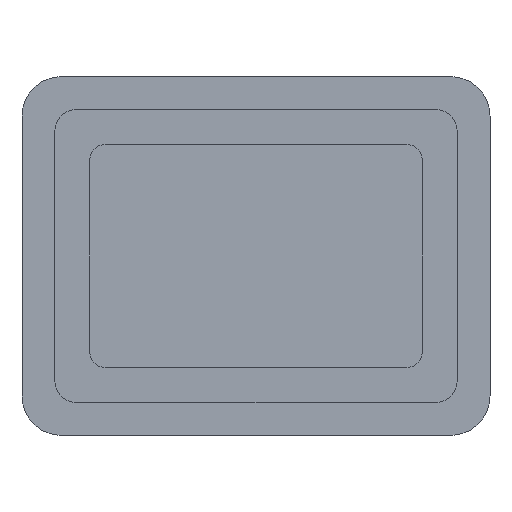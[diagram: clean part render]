
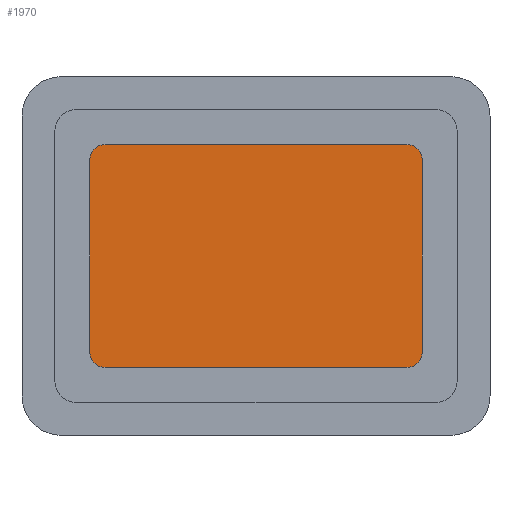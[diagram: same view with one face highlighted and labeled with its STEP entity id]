
A CAD part, left-side view. The second image highlights one B-rep face of the part: STEP entity #1970.
In plain terms, the highlighted planar face has unit normal (-1, 0, 0).
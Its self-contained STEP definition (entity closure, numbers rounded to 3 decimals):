
#1361 = CYLINDRICAL_SURFACE('',#1362,0.7);
#1362 = AXIS2_PLACEMENT_3D('',#1363,#1364,#1365);
#1363 = CARTESIAN_POINT('',(580.1,-6.9,12.9));
#1364 = DIRECTION('',(1.,0.,0.));
#1365 = DIRECTION('',(0.,0.,1.));
#1389 = PLANE('',#1390);
#1390 = AXIS2_PLACEMENT_3D('',#1391,#1392,#1393);
#1391 = CARTESIAN_POINT('',(580.1,-7.6,13.6));
#1392 = DIRECTION('',(0.,0.,-1.));
#1393 = DIRECTION('',(1.,0.,0.));
#1418 = CYLINDRICAL_SURFACE('',#1419,0.7);
#1419 = AXIS2_PLACEMENT_3D('',#1420,#1421,#1422);
#1420 = CARTESIAN_POINT('',(580.1,6.9,12.9));
#1421 = DIRECTION('',(1.,0.,0.));
#1422 = DIRECTION('',(0.,0.,1.));
#1446 = PLANE('',#1447);
#1447 = AXIS2_PLACEMENT_3D('',#1448,#1449,#1450);
#1448 = CARTESIAN_POINT('',(580.1,7.6,13.6));
#1449 = DIRECTION('',(0.,1.,0.));
#1450 = DIRECTION('',(1.,0.,0.));
#1475 = CYLINDRICAL_SURFACE('',#1476,0.7);
#1476 = AXIS2_PLACEMENT_3D('',#1477,#1478,#1479);
#1477 = CARTESIAN_POINT('',(580.1,6.9,4.1));
#1478 = DIRECTION('',(1.,0.,0.));
#1479 = DIRECTION('',(0.,0.,-1.));
#1503 = PLANE('',#1504);
#1504 = AXIS2_PLACEMENT_3D('',#1505,#1506,#1507);
#1505 = CARTESIAN_POINT('',(580.1,-7.6,3.4));
#1506 = DIRECTION('',(0.,0.,-1.));
#1507 = DIRECTION('',(1.,0.,0.));
#1532 = CYLINDRICAL_SURFACE('',#1533,0.7);
#1533 = AXIS2_PLACEMENT_3D('',#1534,#1535,#1536);
#1534 = CARTESIAN_POINT('',(580.1,-6.9,4.1));
#1535 = DIRECTION('',(1.,0.,0.));
#1536 = DIRECTION('',(0.,0.,-1.));
#1558 = PLANE('',#1559);
#1559 = AXIS2_PLACEMENT_3D('',#1560,#1561,#1562);
#1560 = CARTESIAN_POINT('',(580.1,-7.6,13.6));
#1561 = DIRECTION('',(0.,1.,0.));
#1562 = DIRECTION('',(1.,0.,0.));
#1574 = VERTEX_POINT('',#1575);
#1575 = CARTESIAN_POINT('',(582.,-6.9,13.6));
#1598 = VERTEX_POINT('',#1599);
#1599 = CARTESIAN_POINT('',(582.,-7.6,12.9));
#1620 = EDGE_CURVE('',#1574,#1598,#1621,.T.);
#1621 = SURFACE_CURVE('',#1622,(#1627,#1634),.PCURVE_S1.);
#1622 = CIRCLE('',#1623,0.7);
#1623 = AXIS2_PLACEMENT_3D('',#1624,#1625,#1626);
#1624 = CARTESIAN_POINT('',(582.,-6.9,12.9));
#1625 = DIRECTION('',(1.,0.,0.));
#1626 = DIRECTION('',(0.,0.,1.));
#1627 = PCURVE('',#1361,#1628);
#1628 = DEFINITIONAL_REPRESENTATION('',(#1629),#1633);
#1629 = LINE('',#1630,#1631);
#1630 = CARTESIAN_POINT('',(0.,1.9));
#1631 = VECTOR('',#1632,1.);
#1632 = DIRECTION('',(1.,0.));
#1633 = ( GEOMETRIC_REPRESENTATION_CONTEXT(2) 
PARAMETRIC_REPRESENTATION_CONTEXT() REPRESENTATION_CONTEXT('2D SPACE',''
  ) );
#1634 = PCURVE('',#1635,#1640);
#1635 = PLANE('',#1636);
#1636 = AXIS2_PLACEMENT_3D('',#1637,#1638,#1639);
#1637 = CARTESIAN_POINT('',(582.,-10.7,16.7));
#1638 = DIRECTION('',(1.,0.,0.));
#1639 = DIRECTION('',(0.,0.,-1.));
#1640 = DEFINITIONAL_REPRESENTATION('',(#1641),#1645);
#1641 = CIRCLE('',#1642,0.7);
#1642 = AXIS2_PLACEMENT_2D('',#1643,#1644);
#1643 = CARTESIAN_POINT('',(3.8,3.8));
#1644 = DIRECTION('',(-1.,0.));
#1645 = ( GEOMETRIC_REPRESENTATION_CONTEXT(2) 
PARAMETRIC_REPRESENTATION_CONTEXT() REPRESENTATION_CONTEXT('2D SPACE',''
  ) );
#1652 = EDGE_CURVE('',#1653,#1598,#1655,.T.);
#1653 = VERTEX_POINT('',#1654);
#1654 = CARTESIAN_POINT('',(582.,-7.6,4.1));
#1655 = SURFACE_CURVE('',#1656,(#1660,#1667),.PCURVE_S1.);
#1656 = LINE('',#1657,#1658);
#1657 = CARTESIAN_POINT('',(582.,-7.6,14.4));
#1658 = VECTOR('',#1659,1.);
#1659 = DIRECTION('',(0.,0.,1.));
#1660 = PCURVE('',#1558,#1661);
#1661 = DEFINITIONAL_REPRESENTATION('',(#1662),#1666);
#1662 = LINE('',#1663,#1664);
#1663 = CARTESIAN_POINT('',(1.9,-0.8));
#1664 = VECTOR('',#1665,1.);
#1665 = DIRECTION('',(0.,-1.));
#1666 = ( GEOMETRIC_REPRESENTATION_CONTEXT(2) 
PARAMETRIC_REPRESENTATION_CONTEXT() REPRESENTATION_CONTEXT('2D SPACE',''
  ) );
#1667 = PCURVE('',#1635,#1668);
#1668 = DEFINITIONAL_REPRESENTATION('',(#1669),#1673);
#1669 = LINE('',#1670,#1671);
#1670 = CARTESIAN_POINT('',(2.3,3.1));
#1671 = VECTOR('',#1672,1.);
#1672 = DIRECTION('',(-1.,0.));
#1673 = ( GEOMETRIC_REPRESENTATION_CONTEXT(2) 
PARAMETRIC_REPRESENTATION_CONTEXT() REPRESENTATION_CONTEXT('2D SPACE',''
  ) );
#1700 = VERTEX_POINT('',#1701);
#1701 = CARTESIAN_POINT('',(582.,-6.9,3.4));
#1724 = EDGE_CURVE('',#1653,#1700,#1725,.T.);
#1725 = SURFACE_CURVE('',#1726,(#1731,#1738),.PCURVE_S1.);
#1726 = CIRCLE('',#1727,0.7);
#1727 = AXIS2_PLACEMENT_3D('',#1728,#1729,#1730);
#1728 = CARTESIAN_POINT('',(582.,-6.9,4.1));
#1729 = DIRECTION('',(1.,-0.,0.));
#1730 = DIRECTION('',(0.,0.,-1.));
#1731 = PCURVE('',#1532,#1732);
#1732 = DEFINITIONAL_REPRESENTATION('',(#1733),#1737);
#1733 = LINE('',#1734,#1735);
#1734 = CARTESIAN_POINT('',(-6.283,1.9));
#1735 = VECTOR('',#1736,1.);
#1736 = DIRECTION('',(1.,-0.));
#1737 = ( GEOMETRIC_REPRESENTATION_CONTEXT(2) 
PARAMETRIC_REPRESENTATION_CONTEXT() REPRESENTATION_CONTEXT('2D SPACE',''
  ) );
#1738 = PCURVE('',#1635,#1739);
#1739 = DEFINITIONAL_REPRESENTATION('',(#1740),#1744);
#1740 = CIRCLE('',#1741,0.7);
#1741 = AXIS2_PLACEMENT_2D('',#1742,#1743);
#1742 = CARTESIAN_POINT('',(12.6,3.8));
#1743 = DIRECTION('',(1.,0.));
#1744 = ( GEOMETRIC_REPRESENTATION_CONTEXT(2) 
PARAMETRIC_REPRESENTATION_CONTEXT() REPRESENTATION_CONTEXT('2D SPACE',''
  ) );
#1749 = EDGE_CURVE('',#1700,#1750,#1752,.T.);
#1750 = VERTEX_POINT('',#1751);
#1751 = CARTESIAN_POINT('',(582.,6.9,3.4));
#1752 = SURFACE_CURVE('',#1753,(#1757,#1764),.PCURVE_S1.);
#1753 = LINE('',#1754,#1755);
#1754 = CARTESIAN_POINT('',(582.,-8.4,3.4));
#1755 = VECTOR('',#1756,1.);
#1756 = DIRECTION('',(0.,1.,0.));
#1757 = PCURVE('',#1503,#1758);
#1758 = DEFINITIONAL_REPRESENTATION('',(#1759),#1763);
#1759 = LINE('',#1760,#1761);
#1760 = CARTESIAN_POINT('',(1.9,0.8));
#1761 = VECTOR('',#1762,1.);
#1762 = DIRECTION('',(0.,-1.));
#1763 = ( GEOMETRIC_REPRESENTATION_CONTEXT(2) 
PARAMETRIC_REPRESENTATION_CONTEXT() REPRESENTATION_CONTEXT('2D SPACE',''
  ) );
#1764 = PCURVE('',#1635,#1765);
#1765 = DEFINITIONAL_REPRESENTATION('',(#1766),#1770);
#1766 = LINE('',#1767,#1768);
#1767 = CARTESIAN_POINT('',(13.3,2.3));
#1768 = VECTOR('',#1769,1.);
#1769 = DIRECTION('',(0.,1.));
#1770 = ( GEOMETRIC_REPRESENTATION_CONTEXT(2) 
PARAMETRIC_REPRESENTATION_CONTEXT() REPRESENTATION_CONTEXT('2D SPACE',''
  ) );
#1801 = VERTEX_POINT('',#1802);
#1802 = CARTESIAN_POINT('',(582.,7.6,4.1));
#1823 = EDGE_CURVE('',#1750,#1801,#1824,.T.);
#1824 = SURFACE_CURVE('',#1825,(#1830,#1837),.PCURVE_S1.);
#1825 = CIRCLE('',#1826,0.7);
#1826 = AXIS2_PLACEMENT_3D('',#1827,#1828,#1829);
#1827 = CARTESIAN_POINT('',(582.,6.9,4.1));
#1828 = DIRECTION('',(1.,-0.,0.));
#1829 = DIRECTION('',(0.,0.,-1.));
#1830 = PCURVE('',#1475,#1831);
#1831 = DEFINITIONAL_REPRESENTATION('',(#1832),#1836);
#1832 = LINE('',#1833,#1834);
#1833 = CARTESIAN_POINT('',(0.,1.9));
#1834 = VECTOR('',#1835,1.);
#1835 = DIRECTION('',(1.,0.));
#1836 = ( GEOMETRIC_REPRESENTATION_CONTEXT(2) 
PARAMETRIC_REPRESENTATION_CONTEXT() REPRESENTATION_CONTEXT('2D SPACE',''
  ) );
#1837 = PCURVE('',#1635,#1838);
#1838 = DEFINITIONAL_REPRESENTATION('',(#1839),#1843);
#1839 = CIRCLE('',#1840,0.7);
#1840 = AXIS2_PLACEMENT_2D('',#1841,#1842);
#1841 = CARTESIAN_POINT('',(12.6,17.6));
#1842 = DIRECTION('',(1.,0.));
#1843 = ( GEOMETRIC_REPRESENTATION_CONTEXT(2) 
PARAMETRIC_REPRESENTATION_CONTEXT() REPRESENTATION_CONTEXT('2D SPACE',''
  ) );
#1850 = VERTEX_POINT('',#1851);
#1851 = CARTESIAN_POINT('',(582.,7.6,12.9));
#1872 = EDGE_CURVE('',#1801,#1850,#1873,.T.);
#1873 = SURFACE_CURVE('',#1874,(#1878,#1885),.PCURVE_S1.);
#1874 = LINE('',#1875,#1876);
#1875 = CARTESIAN_POINT('',(582.,7.6,14.4));
#1876 = VECTOR('',#1877,1.);
#1877 = DIRECTION('',(0.,0.,1.));
#1878 = PCURVE('',#1446,#1879);
#1879 = DEFINITIONAL_REPRESENTATION('',(#1880),#1884);
#1880 = LINE('',#1881,#1882);
#1881 = CARTESIAN_POINT('',(1.9,-0.8));
#1882 = VECTOR('',#1883,1.);
#1883 = DIRECTION('',(0.,-1.));
#1884 = ( GEOMETRIC_REPRESENTATION_CONTEXT(2) 
PARAMETRIC_REPRESENTATION_CONTEXT() REPRESENTATION_CONTEXT('2D SPACE',''
  ) );
#1885 = PCURVE('',#1635,#1886);
#1886 = DEFINITIONAL_REPRESENTATION('',(#1887),#1891);
#1887 = LINE('',#1888,#1889);
#1888 = CARTESIAN_POINT('',(2.3,18.3));
#1889 = VECTOR('',#1890,1.);
#1890 = DIRECTION('',(-1.,0.));
#1891 = ( GEOMETRIC_REPRESENTATION_CONTEXT(2) 
PARAMETRIC_REPRESENTATION_CONTEXT() REPRESENTATION_CONTEXT('2D SPACE',''
  ) );
#1898 = VERTEX_POINT('',#1899);
#1899 = CARTESIAN_POINT('',(582.,6.9,13.6));
#1922 = EDGE_CURVE('',#1850,#1898,#1923,.T.);
#1923 = SURFACE_CURVE('',#1924,(#1929,#1936),.PCURVE_S1.);
#1924 = CIRCLE('',#1925,0.7);
#1925 = AXIS2_PLACEMENT_3D('',#1926,#1927,#1928);
#1926 = CARTESIAN_POINT('',(582.,6.9,12.9));
#1927 = DIRECTION('',(1.,0.,0.));
#1928 = DIRECTION('',(0.,0.,1.));
#1929 = PCURVE('',#1418,#1930);
#1930 = DEFINITIONAL_REPRESENTATION('',(#1931),#1935);
#1931 = LINE('',#1932,#1933);
#1932 = CARTESIAN_POINT('',(-6.283,1.9));
#1933 = VECTOR('',#1934,1.);
#1934 = DIRECTION('',(1.,-0.));
#1935 = ( GEOMETRIC_REPRESENTATION_CONTEXT(2) 
PARAMETRIC_REPRESENTATION_CONTEXT() REPRESENTATION_CONTEXT('2D SPACE',''
  ) );
#1936 = PCURVE('',#1635,#1937);
#1937 = DEFINITIONAL_REPRESENTATION('',(#1938),#1942);
#1938 = CIRCLE('',#1939,0.7);
#1939 = AXIS2_PLACEMENT_2D('',#1940,#1941);
#1940 = CARTESIAN_POINT('',(3.8,17.6));
#1941 = DIRECTION('',(-1.,0.));
#1942 = ( GEOMETRIC_REPRESENTATION_CONTEXT(2) 
PARAMETRIC_REPRESENTATION_CONTEXT() REPRESENTATION_CONTEXT('2D SPACE',''
  ) );
#1947 = EDGE_CURVE('',#1574,#1898,#1948,.T.);
#1948 = SURFACE_CURVE('',#1949,(#1953,#1960),.PCURVE_S1.);
#1949 = LINE('',#1950,#1951);
#1950 = CARTESIAN_POINT('',(582.,-8.4,13.6));
#1951 = VECTOR('',#1952,1.);
#1952 = DIRECTION('',(0.,1.,0.));
#1953 = PCURVE('',#1389,#1954);
#1954 = DEFINITIONAL_REPRESENTATION('',(#1955),#1959);
#1955 = LINE('',#1956,#1957);
#1956 = CARTESIAN_POINT('',(1.9,0.8));
#1957 = VECTOR('',#1958,1.);
#1958 = DIRECTION('',(0.,-1.));
#1959 = ( GEOMETRIC_REPRESENTATION_CONTEXT(2) 
PARAMETRIC_REPRESENTATION_CONTEXT() REPRESENTATION_CONTEXT('2D SPACE',''
  ) );
#1960 = PCURVE('',#1635,#1961);
#1961 = DEFINITIONAL_REPRESENTATION('',(#1962),#1966);
#1962 = LINE('',#1963,#1964);
#1963 = CARTESIAN_POINT('',(3.1,2.3));
#1964 = VECTOR('',#1965,1.);
#1965 = DIRECTION('',(0.,1.));
#1966 = ( GEOMETRIC_REPRESENTATION_CONTEXT(2) 
PARAMETRIC_REPRESENTATION_CONTEXT() REPRESENTATION_CONTEXT('2D SPACE',''
  ) );
#1970 = ADVANCED_FACE('',(#1971),#1635,.F.);
#1971 = FACE_BOUND('',#1972,.F.);
#1972 = EDGE_LOOP('',(#1973,#1974,#1975,#1976,#1977,#1978,#1979,#1980));
#1973 = ORIENTED_EDGE('',*,*,#1947,.F.);
#1974 = ORIENTED_EDGE('',*,*,#1620,.T.);
#1975 = ORIENTED_EDGE('',*,*,#1652,.F.);
#1976 = ORIENTED_EDGE('',*,*,#1724,.T.);
#1977 = ORIENTED_EDGE('',*,*,#1749,.T.);
#1978 = ORIENTED_EDGE('',*,*,#1823,.T.);
#1979 = ORIENTED_EDGE('',*,*,#1872,.T.);
#1980 = ORIENTED_EDGE('',*,*,#1922,.T.);
